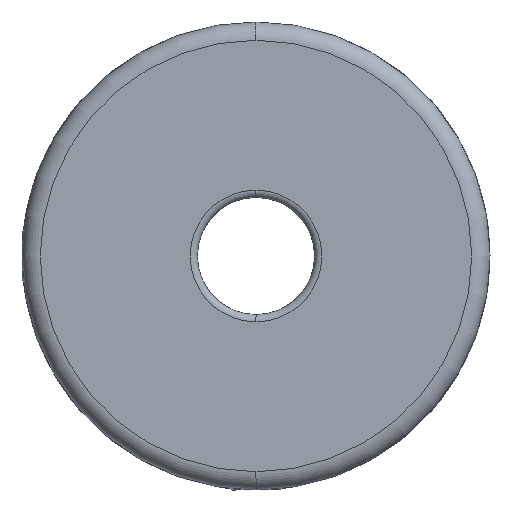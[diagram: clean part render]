
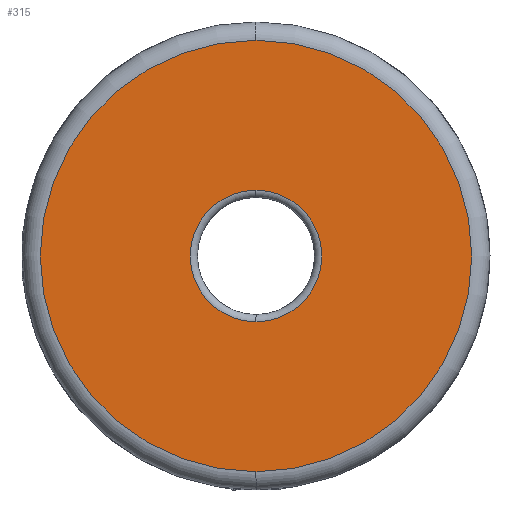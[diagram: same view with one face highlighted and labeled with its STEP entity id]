
A CAD part, left-side view. The second image highlights one B-rep face of the part: STEP entity #315.
In plain terms, the highlighted planar face has unit normal (-1, 0, 0).
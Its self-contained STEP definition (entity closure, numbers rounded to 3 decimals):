
#50 = AXIS2_PLACEMENT_3D ( 'NONE', #1084, #3305, #1389 ) ;
#71 = EDGE_LOOP ( 'NONE', ( #1725, #3316 ) ) ;
#80 = VERTEX_POINT ( 'NONE', #3826 ) ;
#315 = ADVANCED_FACE ( 'NONE', ( #3580, #488 ), #1915, .F. ) ;
#385 = CARTESIAN_POINT ( 'NONE',  ( -16., 0., 0. ) ) ;
#488 = FACE_OUTER_BOUND ( 'NONE', #1300, .T. ) ;
#681 = DIRECTION ( 'NONE',  ( 1., 0., 0. ) ) ;
#700 = DIRECTION ( 'NONE',  ( 0., 0., -1. ) ) ;
#712 = VERTEX_POINT ( 'NONE', #3231 ) ;
#988 = CARTESIAN_POINT ( 'NONE',  ( -16., 0., 0. ) ) ;
#1010 = CARTESIAN_POINT ( 'NONE',  ( -16., 0., -4.5 ) ) ;
#1044 = AXIS2_PLACEMENT_3D ( 'NONE', #988, #681, #2565 ) ;
#1084 = CARTESIAN_POINT ( 'NONE',  ( -16., 0., 0. ) ) ;
#1259 = EDGE_CURVE ( 'NONE', #712, #80, #3352, .T. ) ;
#1300 = EDGE_LOOP ( 'NONE', ( #2903, #4033 ) ) ;
#1356 = DIRECTION ( 'NONE',  ( 1., 0., 0. ) ) ;
#1361 = DIRECTION ( 'NONE',  ( 1., 0., 0. ) ) ;
#1389 = DIRECTION ( 'NONE',  ( 0., 0., -1. ) ) ;
#1725 = ORIENTED_EDGE ( 'NONE', *, *, #2990, .T. ) ;
#1915 = PLANE ( 'NONE',  #1044 ) ;
#2076 = EDGE_CURVE ( 'NONE', #80, #712, #2755, .T. ) ;
#2177 = CIRCLE ( 'NONE', #2219, 4.5 ) ;
#2219 = AXIS2_PLACEMENT_3D ( 'NONE', #3274, #1356, #3578 ) ;
#2447 = VERTEX_POINT ( 'NONE', #1010 ) ;
#2544 = CARTESIAN_POINT ( 'NONE',  ( -16., 0., 4.5 ) ) ;
#2565 = DIRECTION ( 'NONE',  ( 0., 0., -1. ) ) ;
#2612 = DIRECTION ( 'NONE',  ( -1., 0., 0. ) ) ;
#2755 = CIRCLE ( 'NONE', #3742, 14.75 ) ;
#2800 = VERTEX_POINT ( 'NONE', #2544 ) ;
#2837 = AXIS2_PLACEMENT_3D ( 'NONE', #3285, #1361, #3586 ) ;
#2903 = ORIENTED_EDGE ( 'NONE', *, *, #2076, .T. ) ;
#2909 = CIRCLE ( 'NONE', #2837, 4.5 ) ;
#2990 = EDGE_CURVE ( 'NONE', #2447, #2800, #2909, .T. ) ;
#3231 = CARTESIAN_POINT ( 'NONE',  ( -16., 0., 14.75 ) ) ;
#3274 = CARTESIAN_POINT ( 'NONE',  ( -16., 0., 0. ) ) ;
#3285 = CARTESIAN_POINT ( 'NONE',  ( -16., 0., 0. ) ) ;
#3305 = DIRECTION ( 'NONE',  ( -1., 0., 0. ) ) ;
#3316 = ORIENTED_EDGE ( 'NONE', *, *, #3533, .T. ) ;
#3352 = CIRCLE ( 'NONE', #50, 14.75 ) ;
#3533 = EDGE_CURVE ( 'NONE', #2800, #2447, #2177, .T. ) ;
#3578 = DIRECTION ( 'NONE',  ( 0., 0., -1. ) ) ;
#3580 = FACE_BOUND ( 'NONE', #71, .T. ) ;
#3586 = DIRECTION ( 'NONE',  ( 0., 0., -1. ) ) ;
#3742 = AXIS2_PLACEMENT_3D ( 'NONE', #385, #2612, #700 ) ;
#3826 = CARTESIAN_POINT ( 'NONE',  ( -16., 0., -14.75 ) ) ;
#4033 = ORIENTED_EDGE ( 'NONE', *, *, #1259, .T. ) ;
